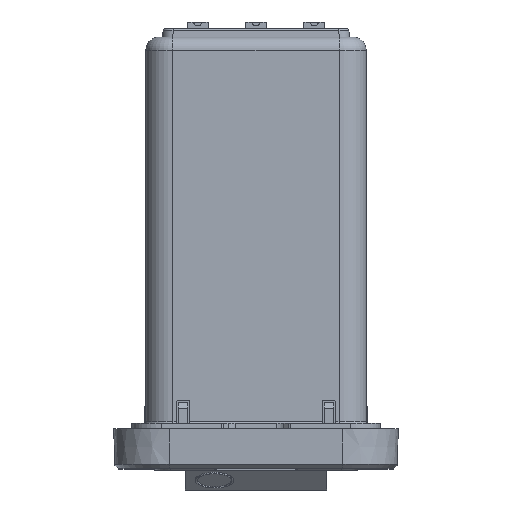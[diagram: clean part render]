
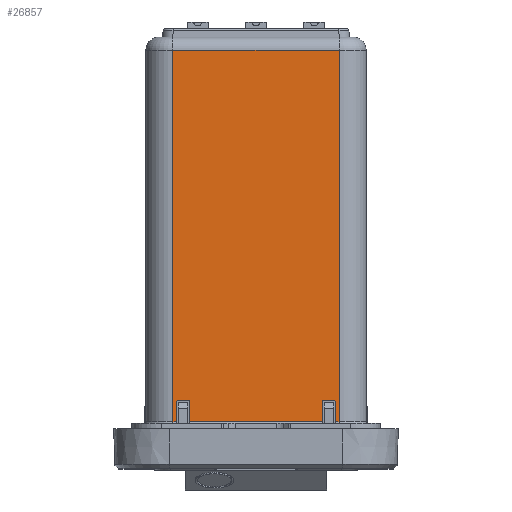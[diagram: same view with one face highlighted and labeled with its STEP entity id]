
A CAD part, top view. The second image highlights one B-rep face of the part: STEP entity #26857.
In plain terms, the highlighted planar face has unit normal (0, 0, 1).
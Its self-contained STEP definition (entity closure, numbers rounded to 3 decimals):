
#26699=CARTESIAN_POINT('',(10.7,51.3,23.1));
#26700=VERTEX_POINT('',#26699);
#26701=CARTESIAN_POINT('',(10.7,3.4,23.1));
#26702=VERTEX_POINT('',#26701);
#26703=CARTESIAN_POINT('',(10.7,51.3,23.1));
#26704=DIRECTION('',(0.0,-1.0,0.0));
#26705=VECTOR('',#26704,47.9);
#26706=LINE('',#26703,#26705);
#26707=EDGE_CURVE('',#26700,#26702,#26706,.T.);
#26727=CARTESIAN_POINT('',(10.7,53.0,23.1));
#26728=DIRECTION('',(0.0,0.0,1.0));
#26729=DIRECTION('',(1.0,0.0,0.0));
#26730=AXIS2_PLACEMENT_3D('',#26727,#26728,#26729);
#26731=PLANE('',#26730);
#26732=CARTESIAN_POINT('',(-8.6,3.4,23.1));
#26733=VERTEX_POINT('',#26732);
#26734=CARTESIAN_POINT('',(-8.6,6.,23.1));
#26735=VERTEX_POINT('',#26734);
#26736=CARTESIAN_POINT('',(-8.6,3.4,23.1));
#26737=DIRECTION('',(0.0,1.0,0.0));
#26738=VECTOR('',#26737,2.6);
#26739=LINE('',#26736,#26738);
#26740=EDGE_CURVE('',#26733,#26735,#26739,.T.);
#26741=ORIENTED_EDGE('',*,*,#26740,.F.);
#26742=CARTESIAN_POINT('',(8.6,3.4,23.1));
#26743=VERTEX_POINT('',#26742);
#26744=CARTESIAN_POINT('',(-8.6,3.4,23.1));
#26745=DIRECTION('',(1.0,0.0,0.0));
#26746=VECTOR('',#26745,17.2);
#26747=LINE('',#26744,#26746);
#26748=EDGE_CURVE('',#26733,#26743,#26747,.T.);
#26749=ORIENTED_EDGE('',*,*,#26748,.T.);
#26750=CARTESIAN_POINT('',(8.6,6.,23.1));
#26751=VERTEX_POINT('',#26750);
#26752=CARTESIAN_POINT('',(8.6,6.,23.1));
#26753=DIRECTION('',(0.0,-1.0,0.0));
#26754=VECTOR('',#26753,2.6);
#26755=LINE('',#26752,#26754);
#26756=EDGE_CURVE('',#26751,#26743,#26755,.T.);
#26757=ORIENTED_EDGE('',*,*,#26756,.F.);
#26758=CARTESIAN_POINT('',(8.8,6.2,23.1));
#26759=VERTEX_POINT('',#26758);
#26760=CARTESIAN_POINT('',(8.8,6.,23.1));
#26761=DIRECTION('',(0.0,0.0,1.0));
#26762=DIRECTION('',(1.0,0.0,0.0));
#26763=AXIS2_PLACEMENT_3D('',#26760,#26761,#26762);
#26764=CIRCLE('',#26763,0.2);
#26765=EDGE_CURVE('',#26759,#26751,#26764,.T.);
#26766=ORIENTED_EDGE('',*,*,#26765,.F.);
#26767=CARTESIAN_POINT('',(10.,6.2,23.1));
#26768=VERTEX_POINT('',#26767);
#26769=CARTESIAN_POINT('',(8.8,6.2,23.1));
#26770=DIRECTION('',(1.0,0.0,0.0));
#26771=VECTOR('',#26770,1.2);
#26772=LINE('',#26769,#26771);
#26773=EDGE_CURVE('',#26759,#26768,#26772,.T.);
#26774=ORIENTED_EDGE('',*,*,#26773,.T.);
#26775=CARTESIAN_POINT('',(10.2,6.,23.1));
#26776=VERTEX_POINT('',#26775);
#26777=CARTESIAN_POINT('',(10.,6.,23.1));
#26778=DIRECTION('',(0.0,0.0,1.0));
#26779=DIRECTION('',(1.0,0.0,0.0));
#26780=AXIS2_PLACEMENT_3D('',#26777,#26778,#26779);
#26781=CIRCLE('',#26780,0.2);
#26782=EDGE_CURVE('',#26776,#26768,#26781,.T.);
#26783=ORIENTED_EDGE('',*,*,#26782,.F.);
#26784=CARTESIAN_POINT('',(10.2,3.4,23.1));
#26785=VERTEX_POINT('',#26784);
#26786=CARTESIAN_POINT('',(10.2,3.4,23.1));
#26787=DIRECTION('',(0.0,1.0,0.0));
#26788=VECTOR('',#26787,2.6);
#26789=LINE('',#26786,#26788);
#26790=EDGE_CURVE('',#26785,#26776,#26789,.T.);
#26791=ORIENTED_EDGE('',*,*,#26790,.F.);
#26792=CARTESIAN_POINT('',(10.2,3.4,23.1));
#26793=DIRECTION('',(1.0,0.0,0.0));
#26794=VECTOR('',#26793,0.5);
#26795=LINE('',#26792,#26794);
#26796=EDGE_CURVE('',#26785,#26702,#26795,.T.);
#26797=ORIENTED_EDGE('',*,*,#26796,.T.);
#26798=ORIENTED_EDGE('',*,*,#26707,.F.);
#26799=CARTESIAN_POINT('',(-10.7,51.3,23.1));
#26800=VERTEX_POINT('',#26799);
#26801=CARTESIAN_POINT('',(10.7,51.3,23.1));
#26802=DIRECTION('',(-1.0,0.0,0.0));
#26803=VECTOR('',#26802,21.4);
#26804=LINE('',#26801,#26803);
#26805=EDGE_CURVE('',#26700,#26800,#26804,.T.);
#26806=ORIENTED_EDGE('',*,*,#26805,.T.);
#26807=CARTESIAN_POINT('',(-10.7,3.4,23.1));
#26808=VERTEX_POINT('',#26807);
#26809=CARTESIAN_POINT('',(-10.7,51.3,23.1));
#26810=DIRECTION('',(0.0,-1.0,0.0));
#26811=VECTOR('',#26810,47.9);
#26812=LINE('',#26809,#26811);
#26813=EDGE_CURVE('',#26800,#26808,#26812,.T.);
#26814=ORIENTED_EDGE('',*,*,#26813,.T.);
#26815=CARTESIAN_POINT('',(-10.2,3.4,23.1));
#26816=VERTEX_POINT('',#26815);
#26817=CARTESIAN_POINT('',(-10.7,3.4,23.1));
#26818=DIRECTION('',(1.0,0.0,0.0));
#26819=VECTOR('',#26818,0.5);
#26820=LINE('',#26817,#26819);
#26821=EDGE_CURVE('',#26808,#26816,#26820,.T.);
#26822=ORIENTED_EDGE('',*,*,#26821,.T.);
#26823=CARTESIAN_POINT('',(-10.2,6.,23.1));
#26824=VERTEX_POINT('',#26823);
#26825=CARTESIAN_POINT('',(-10.2,6.,23.1));
#26826=DIRECTION('',(0.0,-1.0,0.0));
#26827=VECTOR('',#26826,2.6);
#26828=LINE('',#26825,#26827);
#26829=EDGE_CURVE('',#26824,#26816,#26828,.T.);
#26830=ORIENTED_EDGE('',*,*,#26829,.F.);
#26831=CARTESIAN_POINT('',(-10.,6.2,23.1));
#26832=VERTEX_POINT('',#26831);
#26833=CARTESIAN_POINT('',(-10.,6.,23.1));
#26834=DIRECTION('',(0.0,0.0,1.0));
#26835=DIRECTION('',(1.0,0.0,0.0));
#26836=AXIS2_PLACEMENT_3D('',#26833,#26834,#26835);
#26837=CIRCLE('',#26836,0.2);
#26838=EDGE_CURVE('',#26832,#26824,#26837,.T.);
#26839=ORIENTED_EDGE('',*,*,#26838,.F.);
#26840=CARTESIAN_POINT('',(-8.8,6.2,23.1));
#26841=VERTEX_POINT('',#26840);
#26842=CARTESIAN_POINT('',(-10.,6.2,23.1));
#26843=DIRECTION('',(1.0,0.0,0.0));
#26844=VECTOR('',#26843,1.2);
#26845=LINE('',#26842,#26844);
#26846=EDGE_CURVE('',#26832,#26841,#26845,.T.);
#26847=ORIENTED_EDGE('',*,*,#26846,.T.);
#26848=CARTESIAN_POINT('',(-8.8,6.,23.1));
#26849=DIRECTION('',(0.0,0.0,1.0));
#26850=DIRECTION('',(1.0,0.0,0.0));
#26851=AXIS2_PLACEMENT_3D('',#26848,#26849,#26850);
#26852=CIRCLE('',#26851,0.2);
#26853=EDGE_CURVE('',#26735,#26841,#26852,.T.);
#26854=ORIENTED_EDGE('',*,*,#26853,.F.);
#26855=EDGE_LOOP('',(#26741,#26749,#26757,#26766,#26774,#26783,#26791,#26797,#26798,#26806,#26814,#26822,#26830,#26839,#26847,#26854));
#26856=FACE_OUTER_BOUND('',#26855,.T.);
#26857=ADVANCED_FACE('',(#26856),#26731,.T.);
